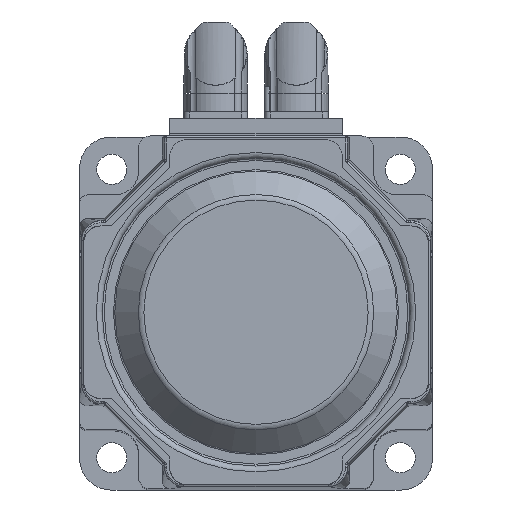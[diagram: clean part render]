
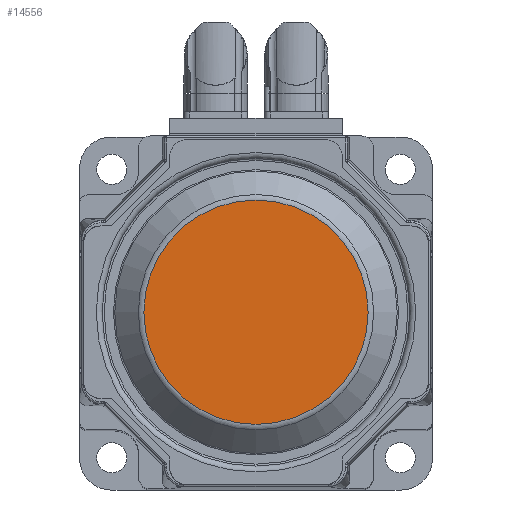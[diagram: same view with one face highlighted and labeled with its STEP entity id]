
A CAD part, top view. The second image highlights one B-rep face of the part: STEP entity #14556.
In plain terms, the highlighted planar face has unit normal (0, 0, 1).
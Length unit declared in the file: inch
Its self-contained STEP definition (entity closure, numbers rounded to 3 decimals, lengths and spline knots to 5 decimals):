
#14536=CARTESIAN_POINT('',(0.0,1.78622,1.69));
#14537=VERTEX_POINT('',#14536);
#14538=CARTESIAN_POINT('',(0.0,0.0,1.69));
#14539=DIRECTION('',(0.0,0.0,-1.0));
#14540=DIRECTION('',(0.0,1.0,0.0));
#14541=AXIS2_PLACEMENT_3D('',#14538,#14539,#14540);
#14542=CIRCLE('',#14541,1.78622);
#14543=EDGE_CURVE('',#14537,#14537,#14542,.T.);
#14548=CARTESIAN_POINT('',(0.0,0.89311,1.69));
#14549=DIRECTION('',(0.0,0.0,1.0));
#14550=DIRECTION('',(1.0,0.0,0.0));
#14551=AXIS2_PLACEMENT_3D('',#14548,#14549,#14550);
#14552=PLANE('',#14551);
#14553=ORIENTED_EDGE('',*,*,#14543,.F.);
#14554=EDGE_LOOP('',(#14553));
#14555=FACE_OUTER_BOUND('',#14554,.T.);
#14556=ADVANCED_FACE('',(#14555),#14552,.T.);
